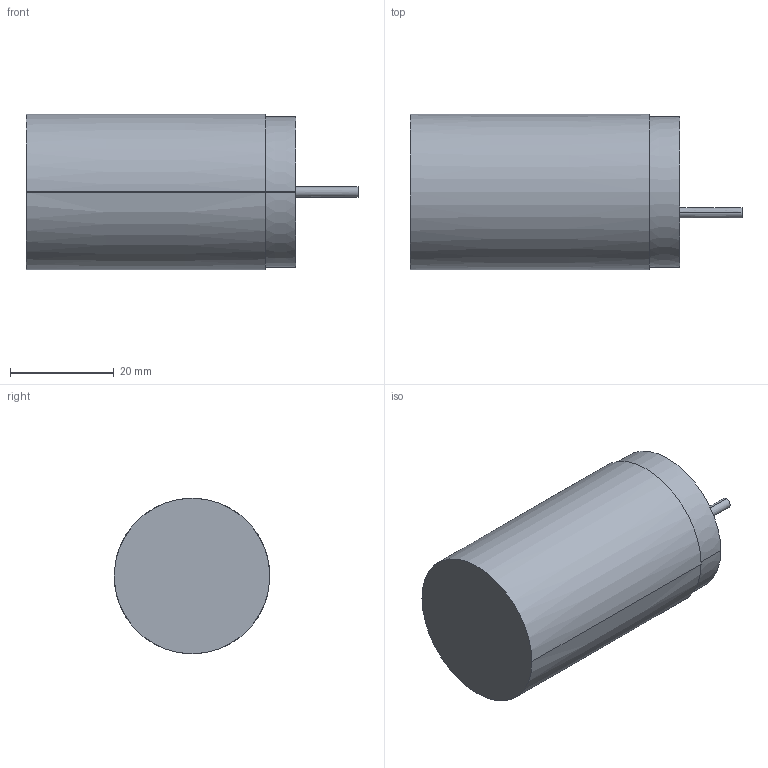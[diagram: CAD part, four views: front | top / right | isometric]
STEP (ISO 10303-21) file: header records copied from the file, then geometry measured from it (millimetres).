
FILE_DESCRIPTION((''),'2;1');
FILE_NAME('875CP_PG4-14_CABLE_M30','2009-12-31T',('Administrator'),(''),'PRO/ENGINEER BY PARAMETRIC TECHNOLOGY CORPORATION, 2007390','PRO/ENGINEER BY PARAMETRIC TECHNOLOGY CORPORATION, 2007390','');
FILE_SCHEMA(('CONFIG_CONTROL_DESIGN'));
Length unit declared in the file: millimetre
Products named in the file (1): 875CP_PG4-14_CABLE_M30
Bounding box: 64 x 30 x 30 mm (x, y, z)
Surface area: 6371.5 mm2 (no closed solid volume)
Topology: 0 solids, 0 shells, 10 faces, 48 edges, 54 vertices
Faces by surface type: bspline 10
Entity records: 1220 total; most frequent: CARTESIAN_POINT 781, DIRECTION 74, TRIMMED_CURVE 54, VECTOR 36, LINE 36, DEFINITIONAL_REPRESENTATION 36, PCURVE 36, COMPOSITE_CURVE_SEGMENT 36
